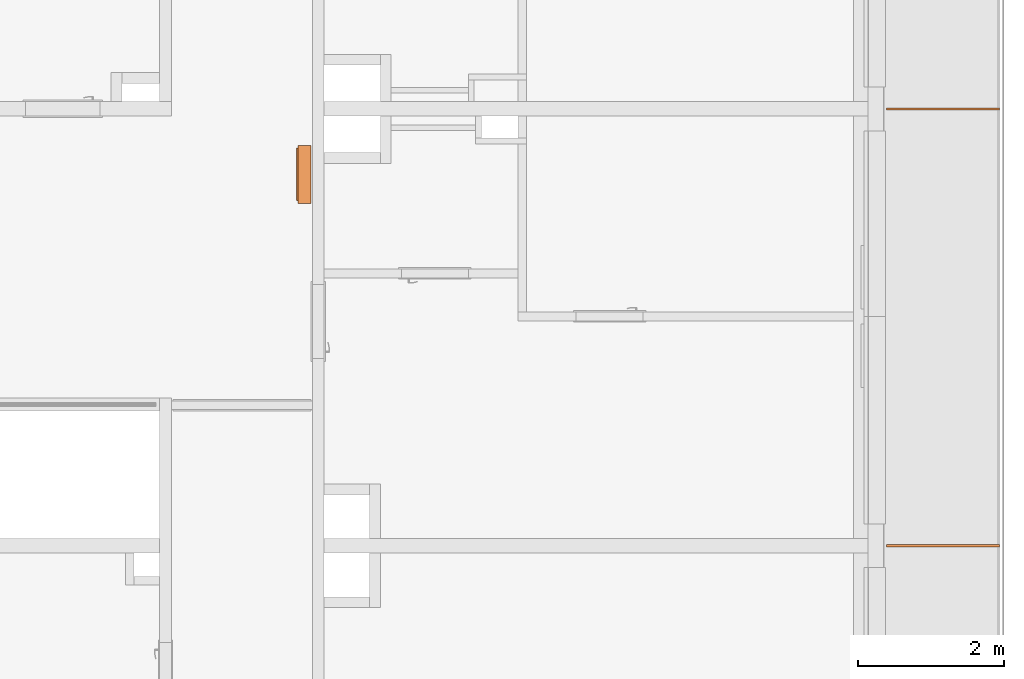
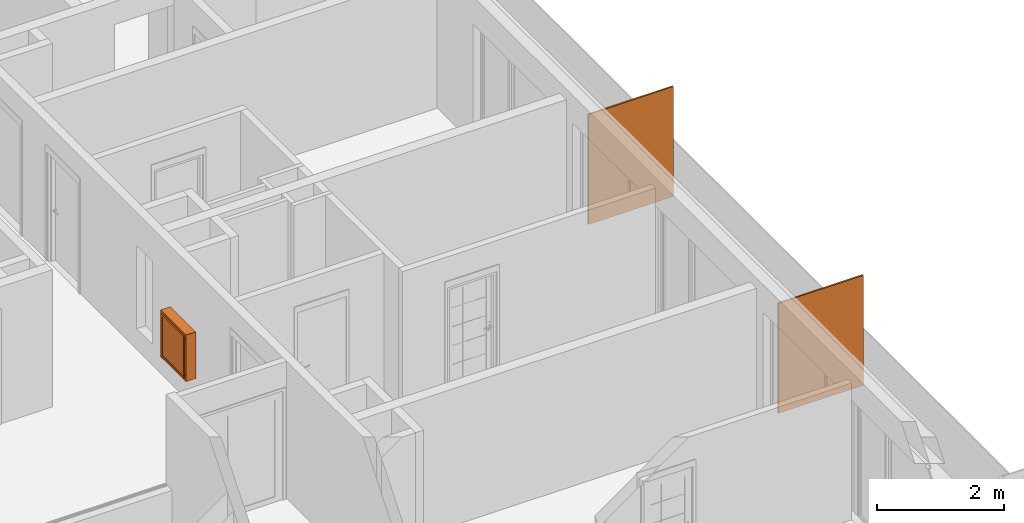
# One storey, part 32 of 64: 3 proxies.
"""IFC2X3 building model written with IfcOpenShell, lengths in millimetres."""

from ifc_helpers import new_model, entity, si_unit, converted_unit, derived_unit, money_unit, direction, frame, origin_with_axes, place, context, subcontext, project, spatial, polyline, outline, extrude, faceted_brep, source, transform, mapped, material, type_object, element, save


model = new_model("IFC2X3")

# Units and contexts
model_context = context("Model", 3, precision=0.01, world=origin_with_axes(), true_north=direction((0.34421633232, 0.938890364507)))
body_context = subcontext(model_context, "Body", "Model", "MODEL_VIEW")
ifc_project = project(units=[si_unit("LENGTHUNIT", "METRE", prefix="MILLI"), si_unit("AREAUNIT", "SQUARE_METRE"), si_unit("VOLUMEUNIT", "CUBIC_METRE"), converted_unit("PLANEANGLEUNIT", "DEGREE", entity("IfcPlaneAngleMeasure", 0.0174532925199), si_unit("PLANEANGLEUNIT", "RADIAN"), dimensions=[0, 0, 0, 0, 0, 0, 0]), si_unit("SOLIDANGLEUNIT", "STERADIAN"), money_unit("USD"), converted_unit("TIMEUNIT", "Year", entity("IfcTimeMeasure", 31556926.0), si_unit("TIMEUNIT", "SECOND"), dimensions=[0, 0, 1, 0, 0, 0, 0]), si_unit("MASSUNIT", "GRAM", prefix="KILO"), si_unit("THERMODYNAMICTEMPERATUREUNIT", "DEGREE_CELSIUS"), si_unit("LUMINOUSINTENSITYUNIT", "LUMEN"), si_unit("ENERGYUNIT", "JOULE", prefix="MEGA"), derived_unit("THERMALCONDUCTANCEUNIT", [(si_unit("POWERUNIT", "WATT"), 1), (si_unit("LENGTHUNIT", "METRE"), -1), (si_unit("THERMODYNAMICTEMPERATUREUNIT", "KELVIN"), -1)]), derived_unit("SPECIFICHEATCAPACITYUNIT", [(si_unit("ENERGYUNIT", "JOULE"), 1), (si_unit("MASSUNIT", "GRAM", prefix="KILO"), -1), (si_unit("THERMODYNAMICTEMPERATUREUNIT", "KELVIN"), -1)]), derived_unit("MASSDENSITYUNIT", [(si_unit("MASSUNIT", "GRAM", prefix="KILO"), 1), (si_unit("VOLUMEUNIT", "CUBIC_METRE"), -1)])], contexts=[model_context])

# Site, building, storey
site_placement = place(None, origin_with_axes())
site = spatial("IfcSite", under=ifc_project, at=site_placement, Name="USTRONIE MORSKIE", CompositionType="ELEMENT")
building_placement = place(site_placement, origin_with_axes())
building = spatial("IfcBuilding", under=site, at=building_placement, Name="Budynek", CompositionType="ELEMENT")
storey_placement = place(building_placement, frame((0.0, 0.0, 7000.0), z_axis=(0.0, 0.0, 1.0), x_axis=(1.0, 0.0, 0.0)))
storey = spatial("IfcBuildingStorey", under=building, at=storey_placement, Name="PIĘTRO 2", CompositionType="ELEMENT", Elevation=7000.0)

# Proxies
ifc_material = material(Name="Woda")
building_element_proxy_type_1 = type_object("IfcBuildingElementProxyType", Name="Woda 30", PredefinedType="NOTDEFINED")
proxy_1_placement = place(storey_placement, frame((425917.920919, 738801.199036, 20.0), z_axis=(0.0, 0.0, 1.0), x_axis=(0.999999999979, -6.40856598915e-06, 0.0)))
element("IfcBuildingElementProxy", 1, at=proxy_1_placement, inside=storey, type_object=building_element_proxy_type_1, material=ifc_material, Name="Œciana-007", context=body_context, shape_type="SweptSolid", body=[
    extrude(outline(polyline([(0.0, -15.0), (1550.00000003, -15.0), (1550.00000003, 15.0), (0.0, 15.0), (0.0, -15.0)])), origin_with_axes(), (0.0, 0.0, 1.0), 2120.0),
])
proxy_2_placement = place(storey_placement, frame((425917.920919, 732801.199036, 20.0), z_axis=(0.0, 0.0, 1.0), x_axis=(0.999999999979, -6.40856598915e-06, 0.0)))
element("IfcBuildingElementProxy", 2, at=proxy_2_placement, inside=storey, type_object=building_element_proxy_type_1, material=ifc_material, Name="Œciana-007", context=body_context, shape_type="SweptSolid", body=[
    extrude(outline(polyline([(0.0, -14.9999999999), (1550.00000003, -14.9999999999), (1550.00000003, 15.0000000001), (0.0, 15.0000000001), (0.0, -14.9999999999)])), origin_with_axes(), (0.0, 0.0, 1.0), 2120.0),
])
building_element_proxy_type_2 = type_object("IfcBuildingElementProxyType", Name="Skrzynka P-Poż 23", PredefinedType="NOTDEFINED")
shared_shape = source(origin_with_axes(), body_context, "Body", "Brep", [
    faceted_brep([(0.0, 40.0, 0.0), (0.0, 20.0, 0.0), (-800.0, 20.0, 0.0), (-800.0, 40.0, 0.0), (0.0, 40.0, 900.0), (0.0, 20.0, 900.0), (-800.0, 20.0, 900.0), (-60.0, 20.0, 60.0), (-740.0, 20.0, 60.0), (-740.0, 20.0, 840.0), (-60.0, 20.0, 840.0), (-800.0, 40.0, 900.0), (-60.0, 40.0, 60.0), (-60.0, 40.0, 840.0), (-740.0, 40.0, 840.0), (-740.0, 40.0, 60.0)], [[[0, 1, 2, 3]], [[4, 5, 1, 0]], [[1, 5, 6, 2], [7, 8, 9, 10]], [[3, 2, 6, 11]], [[0, 3, 11, 4], [12, 13, 14, 15]], [[11, 6, 5, 4]], [[15, 8, 7, 12]], [[14, 9, 8, 15]], [[13, 10, 9, 14]], [[12, 7, 10, 13]]]),
    faceted_brep([(-40.0, 20.0, 40.0), (-40.0, 0.0, 40.0), (-760.0, 0.0, 40.0), (-760.0, 20.0, 40.0), (-40.0, 20.0, 860.0), (-40.0, 0.0, 860.0), (-760.0, 0.0, 860.0), (-80.0, 0.0, 80.0), (-720.0, 0.0, 80.0), (-720.0, 0.0, 820.0), (-80.0, 0.0, 820.0), (-760.0, 20.0, 860.0), (-80.0, 20.0, 80.0), (-80.0, 20.0, 820.0), (-720.0, 20.0, 820.0), (-720.0, 20.0, 80.0)], [[[0, 1, 2, 3]], [[4, 5, 1, 0]], [[1, 5, 6, 2], [7, 8, 9, 10]], [[3, 2, 6, 11]], [[0, 3, 11, 4], [12, 13, 14, 15]], [[11, 6, 5, 4]], [[15, 8, 7, 12]], [[14, 9, 8, 15]], [[13, 10, 9, 14]], [[12, 7, 10, 13]]]),
    faceted_brep([(0.0, 180.0, 0.0), (0.0, 40.0, 0.0), (-800.0, 40.0, 0.0), (-800.0, 180.0, 0.0), (0.0, 180.0, 900.0), (0.0, 40.0, 900.0), (-800.0, 40.0, 900.0), (-20.0, 40.0, 20.0), (-780.0, 40.0, 20.0), (-780.0, 40.0, 880.0), (-20.0, 40.0, 880.0), (-800.0, 180.0, 900.0), (-20.0, 180.0, 20.0), (-20.0, 180.0, 880.0), (-780.0, 180.0, 880.0), (-780.0, 180.0, 20.0)], [[[0, 1, 2, 3]], [[4, 5, 1, 0]], [[1, 5, 6, 2], [7, 8, 9, 10]], [[3, 2, 6, 11]], [[0, 3, 11, 4], [12, 13, 14, 15]], [[11, 6, 5, 4]], [[15, 8, 7, 12]], [[14, 9, 8, 15]], [[13, 10, 9, 14]], [[12, 7, 10, 13]]]),
    faceted_brep([(0.0, 200.0, 0.0), (0.0, 180.0, 0.0), (-800.0, 180.0, 0.0), (-800.0, 200.0, 0.0), (0.0, 200.0, 900.0), (0.0, 180.0, 900.0), (-800.0, 180.0, 900.0), (-800.0, 200.0, 900.0)], [[[0, 1, 2, 3]], [[4, 5, 1, 0]], [[1, 5, 6, 2]], [[3, 2, 6, 7]], [[0, 3, 7, 4]], [[7, 6, 5, 4]]]),
    faceted_brep([(-80.0, 15.0, 80.0), (-80.0, 5.0, 80.0), (-720.0, 5.0, 80.0), (-720.0, 15.0, 80.0), (-80.0, 15.0, 820.0), (-80.0, 5.0, 820.0), (-720.0, 5.0, 820.0), (-720.0, 15.0, 820.0)], [[[0, 1, 2, 3]], [[4, 5, 1, 0]], [[1, 5, 6, 2]], [[3, 2, 6, 7]], [[0, 3, 7, 4]], [[7, 6, 5, 4]]]),
    faceted_brep([(-749.659258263, 0.0, 447.411809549), (-750.0, 0.0, 450.0), (-749.659258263, 0.0, 452.588190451), (-748.660254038, 0.0, 455.0), (-747.071067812, 0.0, 457.071067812), (-745.0, 0.0, 458.660254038), (-742.588190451, 0.0, 459.659258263), (-740.0, 0.0, 460.0), (-737.411809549, 0.0, 459.659258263), (-735.0, 0.0, 458.660254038), (-732.928932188, 0.0, 457.071067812), (-731.339745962, 0.0, 455.0), (-730.340741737, 0.0, 452.588190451), (-730.0, 0.0, 450.0), (-730.340741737, 0.0, 447.411809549), (-731.339745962, 0.0, 445.0), (-732.928932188, 0.0, 442.928932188), (-735.0, 0.0, 441.339745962), (-737.411809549, 0.0, 440.340741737), (-740.0, 0.0, 440.0), (-742.588190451, 0.0, 440.340741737), (-745.0, 0.0, 441.339745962), (-747.071067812, 0.0, 442.928932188), (-748.660254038, 0.0, 445.0), (-749.659258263, -2.0, 447.411809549), (-750.0, -2.0, 450.0), (-749.659258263, -2.0, 452.588190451), (-748.660254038, -2.0, 455.0), (-747.071067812, -2.0, 457.071067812), (-745.0, -2.0, 458.660254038), (-742.588190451, -2.0, 459.659258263), (-740.0, -2.0, 460.0), (-737.411809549, -2.0, 459.659258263), (-735.0, -2.0, 458.660254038), (-732.928932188, -2.0, 457.071067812), (-731.339745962, -2.0, 455.0), (-730.340741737, -2.0, 452.588190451), (-730.0, -2.0, 450.0), (-730.340741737, -2.0, 447.411809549), (-731.339745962, -2.0, 445.0), (-732.928932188, -2.0, 442.928932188), (-735.0, -2.0, 441.339745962), (-737.411809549, -2.0, 440.340741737), (-740.0, -2.0, 440.0), (-742.588190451, -2.0, 440.340741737), (-745.0, -2.0, 441.339745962), (-747.071067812, -2.0, 442.928932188), (-748.660254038, -2.0, 445.0)], [[[0, 1, 2, 3, 4, 5, 6, 7, 8, 9, 10, 11, 12, 13, 14, 15, 16, 17, 18, 19, 20, 21, 22, 23]], [[0, 24, 25, 1]], [[1, 25, 26, 2]], [[2, 26, 27, 3]], [[3, 27, 28, 4]], [[4, 28, 29, 5]], [[5, 29, 30, 6]], [[6, 30, 31, 7]], [[7, 31, 32, 8]], [[8, 32, 33, 9]], [[9, 33, 34, 10]], [[10, 34, 35, 11]], [[11, 35, 36, 12]], [[12, 36, 37, 13]], [[13, 37, 38, 14]], [[14, 38, 39, 15]], [[15, 39, 40, 16]], [[16, 40, 41, 17]], [[17, 41, 42, 18]], [[18, 42, 43, 19]], [[19, 43, 44, 20]], [[20, 44, 45, 21]], [[21, 45, 46, 22]], [[22, 46, 47, 23]], [[23, 47, 24, 0]], [[24, 47, 46, 45, 44, 43, 42, 41, 40, 39, 38, 37, 36, 35, 34, 33, 32, 31, 30, 29, 28, 27, 26, 25]]]),
    faceted_brep([(-39.8977774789, 16.2235428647, 80.0), (-40.0, 17.0, 80.0), (-39.8977774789, 17.7764571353, 80.0), (-39.5980762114, 18.5, 80.0), (-39.1213203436, 19.1213203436, 80.0), (-38.5, 19.5980762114, 80.0), (-37.7764571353, 19.8977774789, 80.0), (-37.0, 20.0, 80.0), (-36.2235428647, 19.8977774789, 80.0), (-35.5, 19.5980762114, 80.0), (-34.8786796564, 19.1213203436, 80.0), (-34.4019237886, 18.5, 80.0), (-34.1022225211, 17.7764571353, 80.0), (-34.0, 17.0, 80.0), (-34.1022225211, 16.2235428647, 80.0), (-34.4019237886, 15.5, 80.0), (-34.8786796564, 14.8786796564, 80.0), (-35.5, 14.4019237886, 80.0), (-36.2235428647, 14.1022225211, 80.0), (-37.0, 14.0, 80.0), (-37.7764571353, 14.1022225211, 80.0), (-38.5, 14.4019237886, 80.0), (-39.1213203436, 14.8786796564, 80.0), (-39.5980762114, 15.5, 80.0), (-39.8977774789, 16.2235428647, 120.0), (-40.0, 17.0, 120.0), (-39.8977774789, 17.7764571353, 120.0), (-39.5980762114, 18.5, 120.0), (-39.1213203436, 19.1213203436, 120.0), (-38.5, 19.5980762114, 120.0), (-37.7764571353, 19.8977774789, 120.0), (-37.0, 20.0, 120.0), (-36.2235428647, 19.8977774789, 120.0), (-35.5, 19.5980762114, 120.0), (-34.8786796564, 19.1213203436, 120.0), (-34.4019237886, 18.5, 120.0), (-34.1022225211, 17.7764571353, 120.0), (-34.0, 17.0, 120.0), (-34.1022225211, 16.2235428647, 120.0), (-34.4019237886, 15.5, 120.0), (-34.8786796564, 14.8786796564, 120.0), (-35.5, 14.4019237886, 120.0), (-36.2235428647, 14.1022225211, 120.0), (-37.0, 14.0, 120.0), (-37.7764571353, 14.1022225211, 120.0), (-38.5, 14.4019237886, 120.0), (-39.1213203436, 14.8786796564, 120.0), (-39.5980762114, 15.5, 120.0)], [[[0, 1, 2, 3, 4, 5, 6, 7, 8, 9, 10, 11, 12, 13, 14, 15, 16, 17, 18, 19, 20, 21, 22, 23]], [[0, 24, 25, 1]], [[1, 25, 26, 2]], [[2, 26, 27, 3]], [[3, 27, 28, 4]], [[4, 28, 29, 5]], [[5, 29, 30, 6]], [[6, 30, 31, 7]], [[7, 31, 32, 8]], [[8, 32, 33, 9]], [[9, 33, 34, 10]], [[10, 34, 35, 11]], [[11, 35, 36, 12]], [[12, 36, 37, 13]], [[13, 37, 38, 14]], [[14, 38, 39, 15]], [[15, 39, 40, 16]], [[16, 40, 41, 17]], [[17, 41, 42, 18]], [[18, 42, 43, 19]], [[19, 43, 44, 20]], [[20, 44, 45, 21]], [[21, 45, 46, 22]], [[22, 46, 47, 23]], [[23, 47, 24, 0]], [[24, 47, 46, 45, 44, 43, 42, 41, 40, 39, 38, 37, 36, 35, 34, 33, 32, 31, 30, 29, 28, 27, 26, 25]]]),
    faceted_brep([(-39.8977774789, 16.2235428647, 780.0), (-40.0, 17.0, 780.0), (-39.8977774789, 17.7764571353, 780.0), (-39.5980762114, 18.5, 780.0), (-39.1213203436, 19.1213203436, 780.0), (-38.5, 19.5980762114, 780.0), (-37.7764571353, 19.8977774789, 780.0), (-37.0, 20.0, 780.0), (-36.2235428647, 19.8977774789, 780.0), (-35.5, 19.5980762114, 780.0), (-34.8786796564, 19.1213203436, 780.0), (-34.4019237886, 18.5, 780.0), (-34.1022225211, 17.7764571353, 780.0), (-34.0, 17.0, 780.0), (-34.1022225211, 16.2235428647, 780.0), (-34.4019237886, 15.5, 780.0), (-34.8786796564, 14.8786796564, 780.0), (-35.5, 14.4019237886, 780.0), (-36.2235428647, 14.1022225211, 780.0), (-37.0, 14.0, 780.0), (-37.7764571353, 14.1022225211, 780.0), (-38.5, 14.4019237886, 780.0), (-39.1213203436, 14.8786796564, 780.0), (-39.5980762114, 15.5, 780.0), (-39.8977774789, 16.2235428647, 820.0), (-40.0, 17.0, 820.0), (-39.8977774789, 17.7764571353, 820.0), (-39.5980762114, 18.5, 820.0), (-39.1213203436, 19.1213203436, 820.0), (-38.5, 19.5980762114, 820.0), (-37.7764571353, 19.8977774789, 820.0), (-37.0, 20.0, 820.0), (-36.2235428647, 19.8977774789, 820.0), (-35.5, 19.5980762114, 820.0), (-34.8786796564, 19.1213203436, 820.0), (-34.4019237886, 18.5, 820.0), (-34.1022225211, 17.7764571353, 820.0), (-34.0, 17.0, 820.0), (-34.1022225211, 16.2235428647, 820.0), (-34.4019237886, 15.5, 820.0), (-34.8786796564, 14.8786796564, 820.0), (-35.5, 14.4019237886, 820.0), (-36.2235428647, 14.1022225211, 820.0), (-37.0, 14.0, 820.0), (-37.7764571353, 14.1022225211, 820.0), (-38.5, 14.4019237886, 820.0), (-39.1213203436, 14.8786796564, 820.0), (-39.5980762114, 15.5, 820.0)], [[[0, 1, 2, 3, 4, 5, 6, 7, 8, 9, 10, 11, 12, 13, 14, 15, 16, 17, 18, 19, 20, 21, 22, 23]], [[0, 24, 25, 1]], [[1, 25, 26, 2]], [[2, 26, 27, 3]], [[3, 27, 28, 4]], [[4, 28, 29, 5]], [[5, 29, 30, 6]], [[6, 30, 31, 7]], [[7, 31, 32, 8]], [[8, 32, 33, 9]], [[9, 33, 34, 10]], [[10, 34, 35, 11]], [[11, 35, 36, 12]], [[12, 36, 37, 13]], [[13, 37, 38, 14]], [[14, 38, 39, 15]], [[15, 39, 40, 16]], [[16, 40, 41, 17]], [[17, 41, 42, 18]], [[18, 42, 43, 19]], [[19, 43, 44, 20]], [[20, 44, 45, 21]], [[21, 45, 46, 22]], [[22, 46, 47, 23]], [[23, 47, 24, 0]], [[24, 47, 46, 45, 44, 43, 42, 41, 40, 39, 38, 37, 36, 35, 34, 33, 32, 31, 30, 29, 28, 27, 26, 25]]]),
])
proxy_3_placement = place(storey_placement, frame((417817.920919, 737501.1917, 600.0), z_axis=(0.0, 0.0, 1.0), x_axis=(0.0, -1.0, 0.0)))
element("IfcBuildingElementProxy", 3, at=proxy_3_placement, inside=storey, type_object=building_element_proxy_type_2, Name="OB3", context=body_context, shape_type="MappedRepresentation", body=[
    mapped(shared_shape, transform((0.0, 0.0, 0.0))),
])

save(model, "model.ifc")
